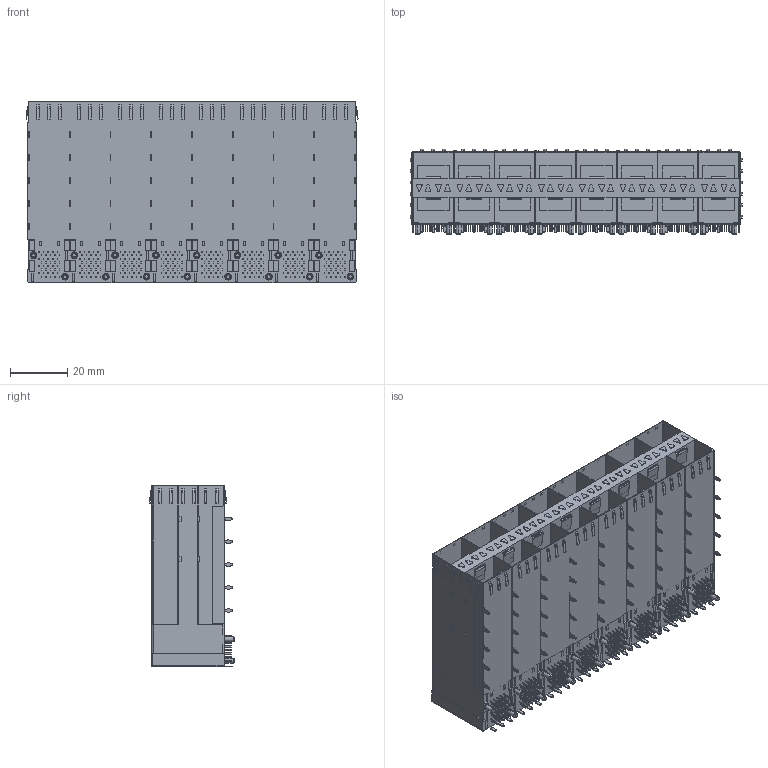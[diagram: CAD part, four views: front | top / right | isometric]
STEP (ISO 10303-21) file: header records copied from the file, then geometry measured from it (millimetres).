
FILE_DESCRIPTION (( 'STEP AP203' ), '1' );
FILE_NAME ('12801_SFP 2X8 无月牙 内外导光柱.STEP', '2024-04-18T07:46:14', ( '' ), ( '' ), 'SwSTEP 2.0', 'SolidWorks 2018', '' );
FILE_SCHEMA (( 'CONFIG_CONTROL_DESIGN' ));
Products named in the file (1): 12801_SFP 2X8 无月牙 内外导光柱
Bounding box: 116.05 x 29.8 x 63.5 mm (x, y, z)
Volume: 92937.5 mm3; surface area: 63987.9 mm2
Topology: 1 solids, 1 shells, 4654 faces, 12286 edges, 8166 vertices
Faces by surface type: plane 3494, cylinder 1094, cone 64, sphere 2
Entity records: 143085 total; most frequent: CARTESIAN_POINT 25105, ORIENTED_EDGE 24568, DIRECTION 23846, EDGE_CURVE 12284, LINE 10032, VECTOR 10032, VERTEX_POINT 8166, AXIS2_PLACEMENT_3D 6907
